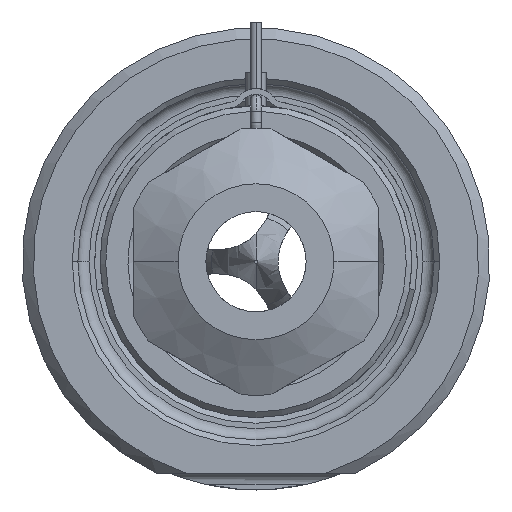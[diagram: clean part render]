
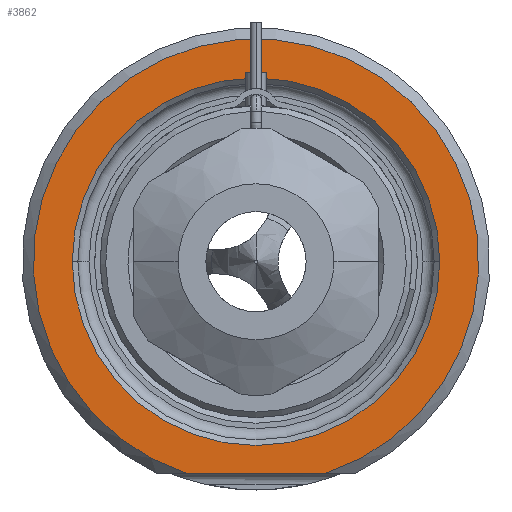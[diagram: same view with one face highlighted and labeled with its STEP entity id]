
A CAD part, front view. The second image highlights one B-rep face of the part: STEP entity #3862.
In plain terms, the highlighted planar face has unit normal (0, -1, 0).
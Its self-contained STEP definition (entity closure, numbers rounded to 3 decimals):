
#1=DIRECTION('',(1.,0.,0.));
#2=VECTOR('',#1,12.49);
#3=CARTESIAN_POINT('',(-6.245,0.,-19.));
#4=LINE('',#3,#2);
#5=CARTESIAN_POINT('',(0.,0.,0.));
#6=DIRECTION('',(0.,1.,0.));
#7=DIRECTION('',(-1.,0.,0.));
#8=AXIS2_PLACEMENT_3D('',#5,#6,#7);
#10=CARTESIAN_POINT('',(0.,0.,0.));
#11=DIRECTION('',(0.,1.,0.));
#12=DIRECTION('',(1.,0.,0.));
#13=AXIS2_PLACEMENT_3D('',#10,#11,#12);
#119=CARTESIAN_POINT('',(0.,0.,0.));
#120=DIRECTION('',(0.,-1.,0.));
#121=DIRECTION('',(0.312,0.,-0.95));
#122=AXIS2_PLACEMENT_3D('',#119,#120,#121);
#3245=CARTESIAN_POINT('',(-16.5,0.,0.));
#3246=CARTESIAN_POINT('',(16.5,0.,0.));
#3247=VERTEX_POINT('',#3245);
#3248=VERTEX_POINT('',#3246);
#3285=CARTESIAN_POINT('',(-6.245,0.,-19.));
#3286=CARTESIAN_POINT('',(6.245,0.,-19.));
#3287=VERTEX_POINT('',#3285);
#3288=VERTEX_POINT('',#3286);
#3845=CARTESIAN_POINT('',(0.,0.,0.));
#3846=DIRECTION('',(0.,-1.,0.));
#3847=DIRECTION('',(1.,0.,0.));
#3848=AXIS2_PLACEMENT_3D('',#3845,#3846,#3847);
#3849=PLANE('',#3848);
#3851=ORIENTED_EDGE('',*,*,#3850,.F.);
#3853=ORIENTED_EDGE('',*,*,#3852,.F.);
#3854=EDGE_LOOP('',(#3851,#3853));
#3855=FACE_OUTER_BOUND('',#3854,.F.);
#3857=ORIENTED_EDGE('',*,*,#3856,.F.);
#3859=ORIENTED_EDGE('',*,*,#3858,.F.);
#3860=EDGE_LOOP('',(#3857,#3859));
#3861=FACE_BOUND('',#3860,.F.);
#3862=ADVANCED_FACE('',(#3855,#3861),#3849,.T.);
#9=CIRCLE('',#8,16.5);
#14=CIRCLE('',#13,16.5);
#123=CIRCLE('',#122,20.);
#3850=EDGE_CURVE('',#3287,#3288,#4,.T.);
#3852=EDGE_CURVE('',#3288,#3287,#123,.T.);
#3856=EDGE_CURVE('',#3247,#3248,#9,.T.);
#3858=EDGE_CURVE('',#3248,#3247,#14,.T.);
